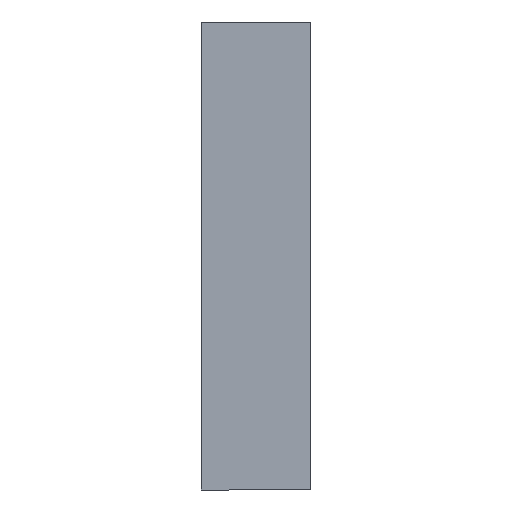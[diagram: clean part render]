
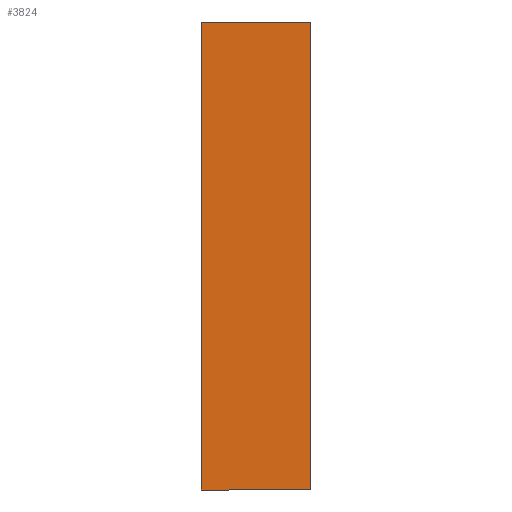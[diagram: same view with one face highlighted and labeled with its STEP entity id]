
A CAD part, front view. The second image highlights one B-rep face of the part: STEP entity #3824.
In plain terms, the highlighted planar face has unit normal (0, -1, 0).
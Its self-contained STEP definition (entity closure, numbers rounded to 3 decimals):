
#466 = EDGE_CURVE ( 'NONE', #908, #6174, #4266, .T. ) ;
#764 = ORIENTED_EDGE ( 'NONE', *, *, #3156, .T. ) ;
#908 = VERTEX_POINT ( 'NONE', #4413 ) ;
#982 = CARTESIAN_POINT ( 'NONE',  ( 46., -78., -98. ) ) ;
#1095 = EDGE_LOOP ( 'NONE', ( #764, #1811, #4975, #2732 ) ) ;
#1200 = CARTESIAN_POINT ( 'NONE',  ( 46., -78., 98. ) ) ;
#1311 = EDGE_CURVE ( 'NONE', #908, #5529, #3747, .T. ) ;
#1447 = VECTOR ( 'NONE', #5657, 1000. ) ;
#1677 = VECTOR ( 'NONE', #4236, 1000. ) ;
#1783 = CARTESIAN_POINT ( 'NONE',  ( 46., -78., -98. ) ) ;
#1801 = CARTESIAN_POINT ( 'NONE',  ( 46., -78., 98. ) ) ;
#1811 = ORIENTED_EDGE ( 'NONE', *, *, #3991, .F. ) ;
#1895 = DIRECTION ( 'NONE',  ( 0., 0., -1. ) ) ;
#2732 = ORIENTED_EDGE ( 'NONE', *, *, #1311, .T. ) ;
#3081 = DIRECTION ( 'NONE',  ( 0., 0., -1. ) ) ;
#3156 = EDGE_CURVE ( 'NONE', #5529, #4389, #5927, .T. ) ;
#3201 = PLANE ( 'NONE',  #3373 ) ;
#3256 = VECTOR ( 'NONE', #3081, 1000. ) ;
#3373 = AXIS2_PLACEMENT_3D ( 'NONE', #1200, #5110, #6077 ) ;
#3498 = CARTESIAN_POINT ( 'NONE',  ( 0., -78., -98. ) ) ;
#3547 = CARTESIAN_POINT ( 'NONE',  ( 0., -78., 98. ) ) ;
#3747 = LINE ( 'NONE', #5067, #1447 ) ;
#3824 = ADVANCED_FACE ( 'NONE', ( #5049 ), #3201, .T. ) ;
#3849 = CARTESIAN_POINT ( 'NONE',  ( 0., -78., 98. ) ) ;
#3991 = EDGE_CURVE ( 'NONE', #6174, #4389, #6106, .T. ) ;
#4100 = VECTOR ( 'NONE', #1895, 1000. ) ;
#4236 = DIRECTION ( 'NONE',  ( -1., 0., 0. ) ) ;
#4266 = LINE ( 'NONE', #1801, #4100 ) ;
#4389 = VERTEX_POINT ( 'NONE', #3498 ) ;
#4413 = CARTESIAN_POINT ( 'NONE',  ( 46., -78., 98. ) ) ;
#4975 = ORIENTED_EDGE ( 'NONE', *, *, #466, .F. ) ;
#5049 = FACE_OUTER_BOUND ( 'NONE', #1095, .T. ) ;
#5067 = CARTESIAN_POINT ( 'NONE',  ( 46., -78., 98. ) ) ;
#5110 = DIRECTION ( 'NONE',  ( 0., -1., 0. ) ) ;
#5529 = VERTEX_POINT ( 'NONE', #3849 ) ;
#5657 = DIRECTION ( 'NONE',  ( -1., 0., 0. ) ) ;
#5927 = LINE ( 'NONE', #3547, #3256 ) ;
#6077 = DIRECTION ( 'NONE',  ( 0., 0., -1. ) ) ;
#6106 = LINE ( 'NONE', #982, #1677 ) ;
#6174 = VERTEX_POINT ( 'NONE', #1783 ) ;
